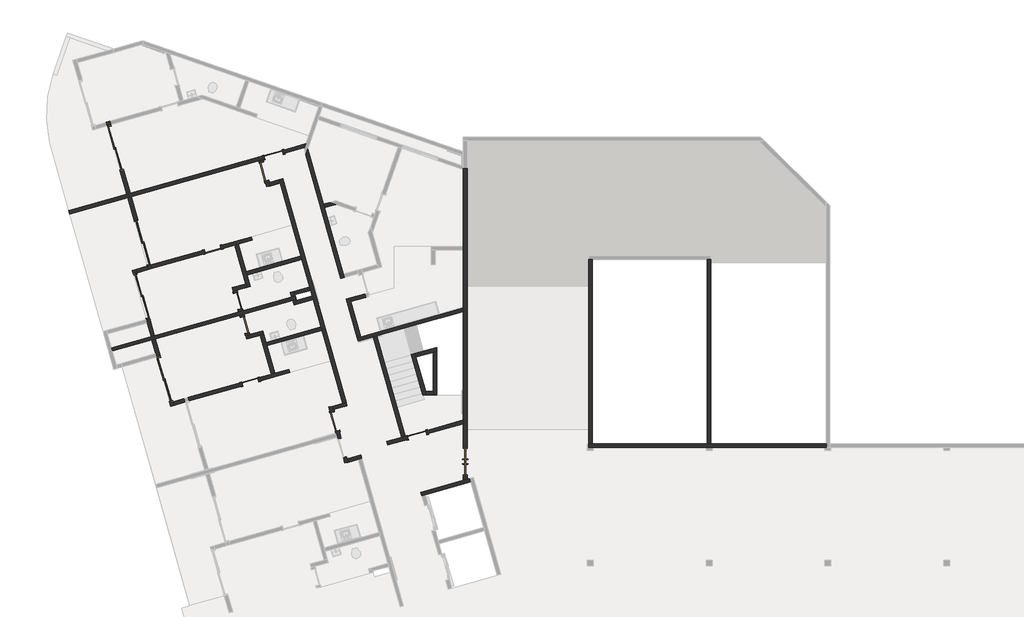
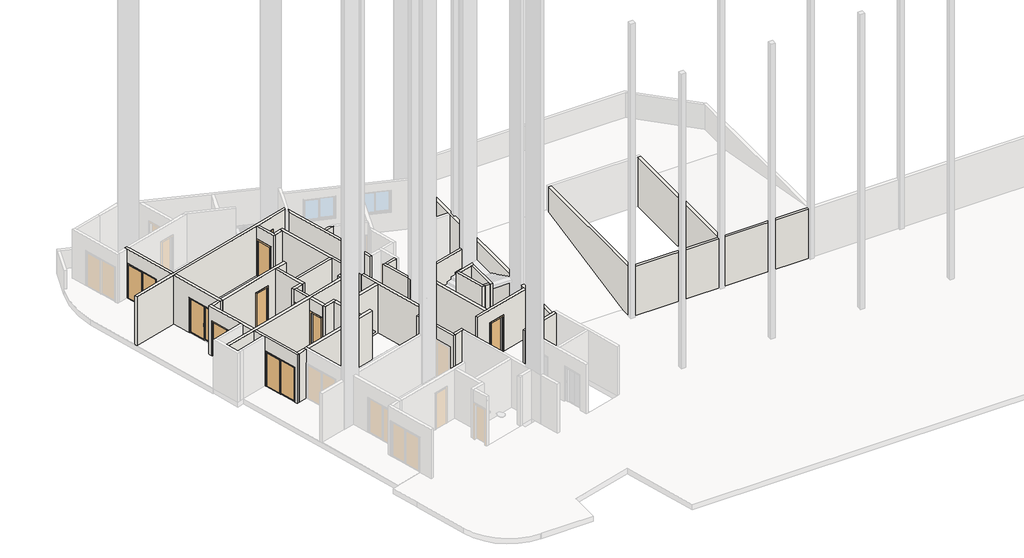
# One storey, part 2 of 4: 44 walls, 13 doors.
"""IFC4 building model written with IfcOpenShell, lengths in millimetres."""

from ifc_helpers import new_model, si_unit, frame, origin, place, context, project, spatial, polyline, outline, extrude, faceted_brep, transform, mapped, element, save
from components import door_1_20_x_2_10_046a985c, p2_80cm_9d4be4ef, p2_80cm_083652d6, p3_70cm_ef4d15e3, p3_70cm_0a698c7c, p4_correr_200cm_eaaa0877

model = new_model("IFC4")

# Units and contexts
model_context = context("Model", 3, world=origin())
ifc_project = project(units=[si_unit("LENGTHUNIT", "METRE", prefix="MILLI")], contexts=[model_context])

# Site, building, storey
site = spatial("IfcSite", under=ifc_project)
building = spatial("IfcBuilding", under=site)
storey = spatial("IfcBuildingStorey", under=building, Name="Garagem 5", Elevation=36250.0)

# Doors
placement = place(None, origin())
door_1_20_x_2_10_shape = door_1_20_x_2_10_046a985c(model_context)
element("IfcDoor", 1, ObjectType="Porta pivotante dupla sem revestimento : 1.20 x 2.10", at=placement, inside=storey, context=model_context, shape_type="MappedRepresentation", body=[
    mapped(door_1_20_x_2_10_shape, transform((-75072.8282189, 18002.5140353, 36250.0), x_axis=(0.0, -1.0, 0.0), y_axis=(1.0, 0.0, 0.0), z_axis=(0.0, 0.0, 1.0))),
])
p2_80cm_shape = p2_80cm_9d4be4ef(model_context)
element("IfcDoor", 2, ObjectType="M_Folha única1 : P2 - 80CM", at=placement, inside=storey, context=model_context, shape_type="MappedRepresentation", body=[
    mapped(p2_80cm_shape, transform((-83145.1128896, 30941.0402894, 36250.0), x_axis=(-0.9623628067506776, -0.2717679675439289, 0.0), y_axis=(0.2717679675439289, -0.9623628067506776, 0.0), z_axis=(0.0, 0.0, 1.0))),
])
element("IfcDoor", 3, ObjectType="M_Folha única1 : P2 - 80CM", at=placement, inside=storey, context=model_context, shape_type="MappedRepresentation", body=[
    mapped(p2_80cm_shape, transform((-80566.3456776, 19693.5423602, 36250.0), x_axis=(0.2717679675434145, -0.9623628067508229, 0.0), y_axis=(0.9623628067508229, 0.2717679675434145, 0.0), z_axis=(0.0, 0.0, 1.0))),
])
p2_80cm_2_shape = p2_80cm_083652d6(model_context)
element("IfcDoor", 4, ObjectType="M_Folha única1 : P2 - 80CM", at=placement, inside=storey, context=model_context, shape_type="MappedRepresentation", body=[
    mapped(p2_80cm_2_shape, transform((-83542.2049222, 30231.4150941, 36250.0), x_axis=(-0.2717679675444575, 0.9623628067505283, 0.0), y_axis=(-0.9623628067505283, -0.2717679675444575, 0.0), z_axis=(0.0, 0.0, 1.0))),
])
p3_70cm_shape = p3_70cm_ef4d15e3(model_context)
element("IfcDoor", 5, ObjectType="M_Folha única1 : P3 - 70CM", at=placement, inside=storey, context=model_context, shape_type="MappedRepresentation", body=[
    mapped(p3_70cm_shape, transform((-84129.1775441, 21363.1168842, 36250.0), x_axis=(0.9623628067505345, 0.27176796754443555, 0.0), y_axis=(-0.27176796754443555, 0.9623628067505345, 0.0), z_axis=(0.0, 0.0, 1.0))),
])
element("IfcDoor", 6, ObjectType="M_Folha única1 : P3 - 70CM", at=placement, inside=storey, context=model_context, shape_type="MappedRepresentation", body=[
    mapped(p3_70cm_shape, transform((-84650.97864, 24774.7108835, 36250.0), x_axis=(0.2717679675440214, -0.9623628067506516, 0.0), y_axis=(0.9623628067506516, 0.2717679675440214, 0.0), z_axis=(0.0, 0.0, 1.0))),
])
p3_70cm_2_shape = p3_70cm_0a698c7c(model_context)
element("IfcDoor", 7, ObjectType="M_Folha única1 : P3 - 70CM", at=placement, inside=storey, context=model_context, shape_type="MappedRepresentation", body=[
    mapped(p3_70cm_2_shape, transform((-84365.6222741, 23764.2299364, 36250.0), x_axis=(-0.2717679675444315, 0.9623628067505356, 0.0), y_axis=(-0.9623628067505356, -0.2717679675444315, 0.0), z_axis=(0.0, 0.0, 1.0))),
])
element("IfcDoor", 8, ObjectType="M_Folha única1 : P3 - 70CM", at=placement, inside=storey, context=model_context, shape_type="MappedRepresentation", body=[
    mapped(p3_70cm_2_shape, transform((-85705.4317558, 26944.8211633, 36250.0), x_axis=(0.9623628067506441, 0.2717679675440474, 0.0), y_axis=(-0.2717679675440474, 0.9623628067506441, 0.0), z_axis=(0.0, 0.0, 1.0))),
])
p4_correr_200cm_shape = p4_correr_200cm_eaaa0877(model_context)
element("IfcDoor", 9, ObjectType="Porta de correr dupla envidraçada sem revestimento : P4 - CORRER - 200CM", at=placement, inside=storey, context=model_context, shape_type="MappedRepresentation", body=[
    mapped(p4_correr_200cm_shape, transform((-89799.7974026, 31217.9316171, 36250.0), x_axis=(0.27176796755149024, -0.9623628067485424, 0.0), y_axis=(0.9623628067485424, 0.27176796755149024, 0.0), z_axis=(0.0, 0.0, 1.0))),
])
element("IfcDoor", 10, ObjectType="Porta de correr dupla envidraçada sem revestimento : P4 - CORRER - 200CM", at=placement, inside=storey, context=model_context, shape_type="MappedRepresentation", body=[
    mapped(p4_correr_200cm_shape, transform((-88671.9603372, 27224.125969, 36250.0), x_axis=(-0.27176796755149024, 0.9623628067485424, 0.0), y_axis=(-0.9623628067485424, -0.27176796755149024, 0.0), z_axis=(0.0, 0.0, 1.0))),
])
element("IfcDoor", 11, ObjectType="Porta de correr dupla envidraçada sem revestimento : P4 - CORRER - 200CM", at=placement, inside=storey, context=model_context, shape_type="MappedRepresentation", body=[
    mapped(p4_correr_200cm_shape, transform((-87717.4207223, 21466.8516126, 36250.0), x_axis=(0.2717679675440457, -0.9623628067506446, 0.0), y_axis=(0.9623628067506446, 0.2717679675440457, 0.0), z_axis=(0.0, 0.0, 1.0))),
])
element("IfcDoor", 12, ObjectType="Porta de correr dupla envidraçada sem revestimento : P4 - CORRER - 200CM", at=placement, inside=storey, context=model_context, shape_type="MappedRepresentation", body=[
    mapped(p4_correr_200cm_shape, transform((-88709.3738038, 24979.4758572, 36250.0), x_axis=(-0.2717679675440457, 0.9623628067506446, 0.0), y_axis=(-0.9623628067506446, -0.2717679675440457, 0.0), z_axis=(0.0, 0.0, 1.0))),
])
element("IfcDoor", 13, ObjectType="M_Folha única1 : PCF1 - 80CM", at=placement, inside=storey, context=model_context, shape_type="MappedRepresentation", body=[
    mapped(p2_80cm_shape, transform((-77103.5502958, 19127.1105693, 36250.0), x_axis=(-0.9623628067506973, -0.2717679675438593, 0.0), y_axis=(0.2717679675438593, -0.9623628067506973, 0.0), z_axis=(0.0, 0.0, 1.0))),
])

# Walls
element("IfcWall", 14, ObjectType="Básica .15 -  Interna", at=placement, inside=storey, context=model_context, shape_type="Brep", body=[
    faceted_brep([(-82901.0804648, 29892.9118737, 36250.0), (-82860.3152697, 29748.5574527, 36250.0), (-81990.6577736, 26668.9964711, 36250.0), (-81949.8925784, 26524.6420501, 36250.0), (-81623.7710174, 25369.806682, 36250.0), (-81583.0058223, 25225.452261, 36250.0), (-81515.0638304, 24984.8615593, 36250.0), (-81474.2986352, 24840.5071383, 36250.0), (-81148.1770742, 23685.6717702, 36250.0), (-81107.4118791, 23541.3173492, 36250.0), (-80237.7543829, 20461.7563676, 36250.0), (-80237.7543829, 20461.7563676, 39150.0), (-81107.4118791, 23541.3173492, 39150.0), (-81148.1770742, 23685.6717702, 39150.0), (-81474.2986352, 24840.5071383, 39150.0), (-81515.0638304, 24984.8615593, 39150.0), (-81583.0058223, 25225.452261, 39150.0), (-81623.7710174, 25369.806682, 39150.0), (-81949.8925784, 26524.6420501, 39150.0), (-81990.6577736, 26668.9964711, 39150.0), (-82860.3152697, 29748.5574527, 39150.0), (-82901.0804648, 29892.9118737, 39150.0), (-82756.7260438, 29933.6770689, 36250.0), (-82756.7260438, 29933.6770689, 39150.0), (-80093.3999619, 20502.5215627, 39150.0), (-80093.3999619, 20502.5215627, 36250.0)], [[[0, 1, 2, 3, 4, 5, 6, 7, 8, 9, 10, 11, 12, 13, 14, 15, 16, 17, 18, 19, 20, 21]], [[22, 23, 24, 25]], [[10, 9, 8, 7, 6, 5, 4, 3, 2, 1, 0, 22, 25]], [[21, 20, 19, 18, 17, 16, 15, 14, 13, 12, 11, 24, 23]], [[0, 21, 23, 22]], [[11, 10, 25, 24]]]),
])
element("IfcWall", 15, ObjectType="Básica .15 -  Interna", at=placement, inside=storey, context=model_context, shape_type="Brep", body=[
    faceted_brep([(-83750.2661164, 30692.2138999, 36250.0), (-83723.0893197, 30595.9776193, 36250.0), (-83723.0893197, 30595.9776193, 38350.0), (-83505.6749457, 29826.0873739, 38350.0), (-83505.6749457, 29826.0873739, 36250.0), (-83437.7329538, 29585.4966722, 36250.0), (-83437.7329538, 29585.4966722, 39150.0), (-83750.2661164, 30692.2138999, 39150.0), (-83578.7348987, 30636.7428144, 38350.0), (-83578.7348987, 30636.7428144, 36250.0), (-83605.9116954, 30732.9790951, 36250.0), (-83605.9116954, 30732.9790951, 39150.0), (-83334.1437279, 29770.6162883, 39150.0), (-83293.3785328, 29626.2618673, 39150.0), (-83293.3785328, 29626.2618673, 36250.0), (-83334.1437279, 29770.6162883, 36250.0), (-83361.3205246, 29866.852569, 36250.0), (-83361.3205246, 29866.852569, 38350.0)], [[[0, 1, 2, 3, 4, 5, 6, 7]], [[8, 9, 10, 11, 12, 13, 14, 15, 16, 17]], [[10, 9, 1, 0]], [[16, 15, 14, 5, 4]], [[7, 6, 13, 12, 11]], [[6, 5, 14, 13]], [[0, 7, 11, 10]], [[2, 1, 9, 8]], [[3, 2, 8, 17]], [[4, 3, 17, 16]]]),
])
element("IfcWall", 16, ObjectType="Básica .15 -  Interna", at=placement, inside=storey, context=model_context, shape_type="SweptSolid", body=[
    extrude(outline(polyline([(-82860.3152697, 29748.5574527), (-83293.3785328, 29626.2618673), (-83334.1437279, 29770.6162883), (-82901.0804648, 29892.9118737), (-82860.3152697, 29748.5574527)])), frame((0.0, 0.0, 36250.0), z_axis=(0.0, 0.0, 1.0), x_axis=(1.0, 0.0, 0.0)), (0.0, 0.0, 1.0), 2900.0),
])
element("IfcWall", 17, ObjectType="Básica .15 -  Interna", at=placement, inside=storey, context=model_context, shape_type="Brep", body=[
    faceted_brep([(-80093.3999619, 20502.5215627, 36250.0), (-80237.7543829, 20461.7563676, 36250.0), (-80670.817646, 20339.4607822, 36250.0), (-80670.817646, 20339.4607822, 39150.0), (-80237.7543829, 20461.7563676, 39150.0), (-80093.3999619, 20502.5215627, 39150.0), (-80052.6347668, 20358.1671417, 36250.0), (-80052.6347668, 20358.1671417, 39150.0), (-80630.0524508, 20195.1063612, 39150.0), (-80630.0524508, 20195.1063612, 36250.0)], [[[0, 1, 2, 3, 4, 5]], [[6, 7, 8, 9]], [[2, 1, 0, 6, 9]], [[5, 4, 3, 8, 7]], [[3, 2, 9, 8]], [[0, 5, 7, 6]]]),
])
element("IfcWall", 18, ObjectType="Básica .15 -  Interna", at=placement, inside=storey, context=model_context, shape_type="Brep", body=[
    faceted_brep([(-80529.815701, 19288.21464, 36250.0), (-80502.6389043, 19191.9783593, 36250.0), (-80461.8737092, 19047.6239383, 36250.0), (-80434.6969124, 18951.3876576, 36250.0), (-80434.6969124, 18951.3876576, 38350.0), (-80217.2825384, 18181.4974122, 38350.0), (-80217.2825384, 18181.4974122, 36250.0), (-80149.3405465, 17940.9067105, 36250.0), (-80149.3405465, 17940.9067105, 39150.0), (-80461.8737092, 19047.6239383, 39150.0), (-80502.6389043, 19191.9783593, 39150.0), (-80815.172067, 20298.695587, 39150.0), (-80815.172067, 20298.695587, 36250.0), (-80747.2300751, 20058.1048854, 36250.0), (-80747.2300751, 20058.1048854, 38350.0), (-80529.815701, 19288.21464, 38350.0), (-80290.3424914, 18992.1528527, 38350.0), (-80290.3424914, 18992.1528527, 36250.0), (-80385.46128, 19328.9798351, 36250.0), (-80385.46128, 19328.9798351, 38350.0), (-80602.8756541, 20098.8700805, 38350.0), (-80602.8756541, 20098.8700805, 36250.0), (-80630.0524508, 20195.1063612, 36250.0), (-80670.817646, 20339.4607822, 36250.0), (-80670.817646, 20339.4607822, 39150.0), (-80630.0524508, 20195.1063612, 39150.0), (-80045.7513206, 18126.0263266, 39150.0), (-80004.9861255, 17981.6719056, 39150.0), (-80004.9861255, 17981.6719056, 36250.0), (-80045.7513206, 18126.0263266, 36250.0), (-80072.9281174, 18222.2626073, 36250.0), (-80072.9281174, 18222.2626073, 38350.0)], [[[0, 1, 2, 3, 4, 5, 6, 7, 8, 9, 10, 11, 12, 13, 14, 15]], [[16, 17, 18, 19, 20, 21, 22, 23, 24, 25, 26, 27, 28, 29, 30, 31]], [[13, 12, 23, 22, 21]], [[18, 17, 3, 2, 1, 0]], [[30, 29, 28, 7, 6]], [[11, 10, 9, 8, 27, 26, 25, 24]], [[12, 11, 24, 23]], [[8, 7, 28, 27]], [[19, 18, 0, 15]], [[20, 19, 15, 14]], [[21, 20, 14, 13]], [[4, 3, 17, 16]], [[5, 4, 16, 31]], [[6, 5, 31, 30]]]),
])
element("IfcWall", 19, ObjectType="Básica .15 -  Interna", at=placement, inside=storey, context=model_context, shape_type="Brep", body=[
    faceted_brep([(-80004.9861255, 17981.6719056, 36250.0), (-79571.9228624, 18103.967491, 36250.0), (-79427.5684414, 18144.7326862, 36250.0), (-79427.5684414, 18144.7326862, 39150.0), (-79571.9228624, 18103.967491, 39150.0), (-80004.9861255, 17981.6719056, 39150.0), (-80045.7513206, 18126.0263266, 36250.0), (-80045.7513206, 18126.0263266, 39150.0), (-79468.3336366, 18289.0871072, 39150.0), (-79468.3336366, 18289.0871072, 36250.0)], [[[0, 1, 2, 3, 4, 5]], [[6, 7, 8, 9]], [[2, 1, 0, 6, 9]], [[5, 4, 3, 8, 7]], [[3, 2, 9, 8]], [[0, 5, 7, 6]]]),
])
element("IfcWall", 20, ObjectType="Básica .15 -  Interna", at=placement, inside=storey, context=model_context, shape_type="Brep", body=[
    faceted_brep([(-88305.9570711, 23274.9583478, 39150.0), (-88469.0178517, 23852.3760319, 39150.0), (-88509.7830468, 23996.7304529, 39150.0), (-89094.084177, 26065.8104874, 39150.0), (-89094.084177, 26065.8104874, 36250.0), (-89053.3189819, 25921.4560664, 36250.0), (-89053.3189819, 25921.4560664, 38350.0), (-88509.7830468, 23996.7304529, 38350.0), (-88509.7830468, 23996.7304529, 36250.0), (-88469.0178517, 23852.3760319, 36250.0), (-88305.9570711, 23274.9583478, 36250.0), (-88949.729756, 26106.5756825, 39150.0), (-88908.9645609, 25962.2212615, 39150.0), (-88161.6026501, 23315.723543, 39150.0), (-88161.6026501, 23315.723543, 36250.0), (-88365.4286258, 24037.495648, 36250.0), (-88365.4286258, 24037.495648, 38350.0), (-88908.9645609, 25962.2212615, 38350.0), (-88908.9645609, 25962.2212615, 36250.0), (-88949.729756, 26106.5756825, 36250.0)], [[[0, 1, 2, 3, 4, 5, 6, 7, 8, 9, 10]], [[11, 12, 13, 14, 15, 16, 17, 18, 19]], [[4, 19, 18, 5]], [[14, 10, 9, 8, 15]], [[3, 2, 1, 0, 13, 12, 11]], [[4, 3, 11, 19]], [[0, 10, 14, 13]], [[17, 6, 5, 18]], [[6, 17, 16, 7]], [[7, 16, 15, 8]]]),
])
element("IfcWall", 21, ObjectType="Básica .15 -  Interna", at=placement, inside=storey, context=model_context, shape_type="Brep", body=[
    faceted_brep([(-89143.3190618, 29169.2341801, 39150.0), (-88328.0151592, 26282.1457598, 39150.0), (-88287.249964, 26137.7913388, 39150.0), (-88287.249964, 26137.7913388, 36250.0), (-88328.0151592, 26282.1457598, 36250.0), (-88328.0151592, 26282.1457598, 38350.0), (-88871.5510943, 28206.8713733, 38350.0), (-88871.5510943, 28206.8713733, 36250.0), (-89143.3190618, 29169.2341801, 36250.0), (-88431.604385, 26097.0261437, 39150.0), (-88472.3695802, 26241.3805647, 39150.0), (-89287.6734828, 29128.468985, 39150.0), (-89287.6734828, 29128.468985, 36250.0), (-89015.9055153, 28166.1061782, 36250.0), (-89015.9055153, 28166.1061782, 38350.0), (-88472.3695802, 26241.3805647, 38350.0), (-88472.3695802, 26241.3805647, 36250.0), (-88431.604385, 26097.0261437, 36250.0)], [[[0, 1, 2, 3, 4, 5, 6, 7, 8]], [[9, 10, 11, 12, 13, 14, 15, 16, 17]], [[3, 17, 16, 4]], [[12, 8, 7, 13]], [[2, 1, 0, 11, 10, 9]], [[3, 2, 9, 17]], [[0, 8, 12, 11]], [[6, 14, 13, 7]], [[14, 6, 5, 15]], [[15, 5, 4, 16]]]),
])
element("IfcWall", 22, ObjectType="Básica .15 -  Interna", at=placement, inside=storey, context=model_context, shape_type="Brep", body=[
    faceted_brep([(-76904.7538909, 16570.3643175, 36250.0), (-76760.3994699, 16611.1295126, 36250.0), (-74840.4856705, 17153.3066079, 36250.0), (-74840.4856705, 17153.3066079, 39150.0), (-76760.3994699, 16611.1295126, 39150.0), (-76904.7538909, 16570.3643175, 39150.0), (-76945.5190861, 16714.7187385, 36250.0), (-76945.5190861, 16714.7187385, 39150.0), (-75147.8282189, 17222.3804954, 39150.0), (-74997.8282189, 17264.7399828, 39150.0), (-74881.2508656, 17297.6610289, 39150.0), (-74881.2508656, 17297.6610289, 36250.0), (-74997.8282189, 17264.7399828, 36250.0), (-75147.8282189, 17222.3804954, 36250.0)], [[[0, 1, 2, 3, 4, 5]], [[6, 7, 8, 9, 10, 11, 12, 13]], [[2, 1, 0, 6, 13, 12, 11]], [[5, 4, 3, 10, 9, 8, 7]], [[0, 5, 7, 6]], [[3, 2, 11, 10]]]),
])
element("IfcWall", 23, ObjectType="Básica .15 -  Interna", at=placement, inside=storey, context=model_context, shape_type="Brep", body=[
    faceted_brep([(-79570.9048554, 23078.5590693, 36250.0), (-78948.2127609, 23254.4051886, 36250.0), (-78803.8582924, 23295.1703972, 36250.0), (-75147.8282189, 24327.6207947, 36250.0), (-75147.8282189, 24327.6207947, 39150.0), (-78803.8582924, 23295.1703972, 39150.0), (-78948.2127609, 23254.4051886, 39150.0), (-79570.9048554, 23078.5590693, 39150.0), (-79611.6700506, 23222.9134903, 36250.0), (-79611.6700506, 23222.9134903, 39150.0), (-79467.3156296, 23263.6786855, 39150.0), (-75147.8282189, 24483.4871675, 39150.0), (-75147.8282189, 24483.4871675, 36250.0), (-79467.3156296, 23263.6786855, 36250.0)], [[[0, 1, 2, 3, 4, 5, 6, 7]], [[8, 9, 10, 11, 12, 13]], [[3, 2, 1, 0, 8, 13, 12]], [[7, 6, 5, 4, 11, 10, 9]], [[0, 7, 9, 8]], [[4, 3, 12, 11]]]),
])
element("IfcWall", 24, ObjectType="Básica .15 -  Interna", at=placement, inside=storey, context=model_context, shape_type="SweptSolid", body=[
    extrude(outline(polyline([(-77749.4687652, 19022.6385875), (-78948.2127609, 23254.4051886), (-78803.8582924, 23295.1703972), (-77605.1142967, 19063.4037961), (-77749.4687652, 19022.6385875)])), frame((0.0, 0.0, 36250.0), z_axis=(0.0, 0.0, 1.0), x_axis=(1.0, 0.0, 0.0)), (0.0, 0.0, 1.0), 2900.0),
])
element("IfcWall", 25, ObjectType="Básica .15 -  Interna", at=placement, inside=storey, context=model_context, shape_type="Brep", body=[
    faceted_brep([(-77508.878016, 19090.5805928, 38350.0), (-77508.878016, 19090.5805928, 36250.0), (-77605.1142967, 19063.4037961, 36250.0), (-77749.4687652, 19022.6385875, 36250.0), (-78375.5945972, 18845.8227925, 36250.0), (-78375.5945972, 18845.8227925, 39150.0), (-77749.4687652, 19022.6385875, 39150.0), (-77605.1142967, 19063.4037961, 39150.0), (-75147.8282189, 19757.3329862, 39150.0), (-75147.8282189, 19757.3329862, 36250.0), (-76738.9877706, 19307.9949669, 36250.0), (-76738.9877706, 19307.9949669, 38350.0), (-78334.829402, 18701.4683715, 36250.0), (-77468.1128209, 18946.2261718, 36250.0), (-77468.1128209, 18946.2261718, 38350.0), (-76698.2225755, 19163.6405459, 38350.0), (-76698.2225755, 19163.6405459, 36250.0), (-75147.8282189, 19601.4666134, 36250.0), (-75147.8282189, 19601.4666134, 39150.0), (-78334.829402, 18701.4683715, 39150.0)], [[[0, 1, 2, 3, 4, 5, 6, 7, 8, 9, 10, 11]], [[12, 13, 14, 15, 16, 17, 18, 19]], [[10, 9, 17, 16]], [[4, 3, 2, 1, 13, 12]], [[5, 4, 12, 19]], [[8, 7, 6, 5, 19, 18]], [[14, 13, 1, 0]], [[15, 14, 0, 11]], [[16, 15, 11, 10]], [[9, 8, 18, 17]]]),
])
element("IfcWall", 26, ObjectType="Básica .15 -  Interna", at=placement, inside=storey, context=model_context, shape_type="Brep", body=[
    faceted_brep([(-75147.8282189, 17222.3804954, 39150.0), (-75147.8282189, 19601.4666134, 39150.0), (-75147.8282189, 19757.3329862, 39150.0), (-75147.8282189, 24327.6207947, 39150.0), (-75147.8282189, 24483.4871675, 39150.0), (-75147.8282189, 26910.8243598, 39150.0), (-75147.8282189, 27060.8243598, 39150.0), (-75147.8282189, 30302.8666514, 39150.0), (-75147.8282189, 30356.258394, 39150.0), (-75147.8282189, 30356.258394, 36250.0), (-75147.8282189, 30302.8666514, 36250.0), (-75147.8282189, 27060.8243598, 36250.0), (-75147.8282189, 26910.8243598, 36250.0), (-75147.8282189, 24483.4871675, 36250.0), (-75147.8282189, 24327.6207947, 36250.0), (-75147.8282189, 19757.3329862, 36250.0), (-75147.8282189, 19601.4666134, 36250.0), (-75147.8282189, 18602.5140353, 36250.0), (-75147.8282189, 18602.5140353, 38350.0), (-75147.8282189, 17402.5140353, 38350.0), (-75147.8282189, 17402.5140353, 36250.0), (-75147.8282189, 17222.3804954, 36250.0), (-74997.8282189, 30356.258394, 39150.0), (-74997.8282189, 17264.7399828, 39150.0), (-74997.8282189, 17264.7399828, 36250.0), (-74997.8282189, 17402.5140353, 36250.0), (-74997.8282189, 17402.5140353, 38350.0), (-74997.8282189, 18602.5140353, 38350.0), (-74997.8282189, 18602.5140353, 36250.0), (-74997.8282189, 30356.258394, 36250.0)], [[[0, 1, 2, 3, 4, 5, 6, 7, 8, 9, 10, 11, 12, 13, 14, 15, 16, 17, 18, 19, 20, 21]], [[22, 23, 24, 25, 26, 27, 28, 29]], [[24, 21, 20, 25]], [[9, 29, 28, 17, 16, 15, 14, 13, 12, 11, 10]], [[8, 7, 6, 5, 4, 3, 2, 1, 0, 23, 22]], [[9, 8, 22, 29]], [[0, 21, 24, 23]], [[19, 26, 25, 20]], [[26, 19, 18, 27]], [[27, 18, 17, 28]]]),
])
element("IfcWall", 27, ObjectType="Básica .15 -  Interna", at=placement, inside=storey, context=model_context, shape_type="Brep", body=[
    faceted_brep([(-80073.6755954, 24858.9302618, 36250.0), (-79611.6700506, 23222.9134903, 36250.0), (-79611.6700506, 23222.9134903, 39150.0), (-80073.6755954, 24858.9302618, 39150.0), (-79929.3211744, 24899.695457, 36250.0), (-79929.3211744, 24899.695457, 39150.0), (-79888.5559793, 24755.3410359, 39150.0), (-79467.3156296, 23263.6786855, 39150.0), (-79467.3156296, 23263.6786855, 36250.0), (-79888.5559793, 24755.3410359, 36250.0)], [[[0, 1, 2, 3]], [[4, 5, 6, 7, 8, 9]], [[1, 0, 4, 9, 8]], [[3, 2, 7, 6, 5]], [[0, 3, 5, 4]], [[2, 1, 8, 7]]]),
])
element("IfcWall", 28, ObjectType="Básica .15 -  Interna", at=placement, inside=storey, context=model_context, shape_type="Brep", body=[
    faceted_brep([(-79888.5559793, 24755.3410359, 36250.0), (-79272.1145689, 24929.4219834, 36250.0), (-79272.1145689, 24929.4219834, 39150.0), (-79888.5559793, 24755.3410359, 39150.0), (-79929.3211744, 24899.695457, 36250.0), (-79929.3211744, 24899.695457, 39150.0), (-79312.8797641, 25073.7764044, 39150.0), (-79312.8797641, 25073.7764044, 38350.0), (-79312.8797641, 25073.7764044, 36250.0)], [[[0, 1, 2, 3]], [[4, 5, 6, 7, 8]], [[1, 0, 4, 8]], [[3, 2, 6, 5]], [[0, 3, 5, 4]], [[2, 1, 8, 7, 6]]]),
])
element("IfcWall", 29, ObjectType="Básica .15 -  Interna", at=placement, inside=storey, context=model_context, shape_type="Brep", body=[
    faceted_brep([(-81789.2550074, 30934.0017027, 36250.0), (-80318.2667662, 25725.0567879, 36250.0), (-80318.2667662, 25725.0567879, 39150.0), (-81789.2550074, 30934.0017027, 39150.0), (-81703.3880158, 31181.8778654, 36250.0), (-81703.3880158, 31181.8778654, 39150.0), (-81045.1503443, 28850.9797144, 39150.0), (-81004.3851492, 28706.6252933, 39150.0), (-80214.6775403, 25910.176404, 39150.0), (-80173.9123452, 25765.821983, 39150.0), (-80173.9123452, 25765.821983, 36250.0), (-80214.6775403, 25910.176404, 36250.0), (-81004.3851492, 28706.6252933, 36250.0), (-81045.1503443, 28850.9797144, 36250.0)], [[[0, 1, 2, 3]], [[4, 5, 6, 7, 8, 9, 10, 11, 12, 13]], [[1, 0, 4, 13, 12, 11, 10]], [[3, 2, 9, 8, 7, 6, 5]], [[0, 3, 5, 4]], [[2, 1, 10, 9]]]),
])
element("IfcWall", 30, ObjectType="Básica .15 -  Interna", at=placement, inside=storey, context=model_context, shape_type="Brep", body=[
    faceted_brep([(-86896.1153684, 20659.6762856, 36250.0), (-87373.4755442, 20524.8714034, 36250.0), (-87373.4755442, 20524.8714034, 38350.0), (-87373.4755442, 20524.8714034, 39150.0), (-86896.1153684, 20659.6762856, 39150.0), (-86855.3501733, 20515.3218646, 36250.0), (-86855.3501733, 20515.3218646, 38350.0), (-86855.3501733, 20515.3218646, 39150.0), (-87332.7103491, 20380.5169824, 39150.0), (-87332.7103491, 20380.5169824, 36250.0)], [[[0, 1, 2, 3, 4]], [[5, 6, 7, 8, 9]], [[1, 0, 5, 9]], [[4, 3, 8, 7]], [[0, 4, 7, 6, 5]], [[3, 2, 1, 9, 8]]]),
])
element("IfcWall", 31, ObjectType="Básica .15 -  Interna", at=placement, inside=storey, context=model_context, shape_type="Brep", body=[
    faceted_brep([(-88908.9645609, 25962.2212615, 36250.0), (-88431.604385, 26097.0261437, 36250.0), (-88431.604385, 26097.0261437, 39150.0), (-88908.9645609, 25962.2212615, 39150.0), (-88908.9645609, 25962.2212615, 38350.0), (-88949.729756, 26106.5756825, 36250.0), (-88949.729756, 26106.5756825, 39150.0), (-88472.3695802, 26241.3805647, 39150.0), (-88472.3695802, 26241.3805647, 36250.0)], [[[0, 1, 2, 3, 4]], [[5, 6, 7, 8]], [[1, 0, 5, 8]], [[3, 2, 7, 6]], [[0, 4, 3, 6, 5]], [[2, 1, 8, 7]]]),
])
element("IfcWall", 32, ObjectType="Básica .15 -  Interna", at=placement, inside=storey, context=model_context, shape_type="Brep", body=[
    faceted_brep([(-91725.2428613, 28440.1077234, 36250.0), (-89287.6734828, 29128.468985, 36250.0), (-89143.3190618, 29169.2341801, 36250.0), (-83750.2661164, 30692.2138999, 36250.0), (-83605.9116954, 30732.9790951, 36250.0), (-83509.6754148, 30760.1558918, 36250.0), (-83509.6754148, 30760.1558918, 38350.0), (-82739.7851694, 30977.5702659, 38350.0), (-82739.7851694, 30977.5702659, 36250.0), (-81845.4155775, 31230.1371819, 36250.0), (-81845.4155775, 31230.1371819, 39150.0), (-83605.9116954, 30732.9790951, 39150.0), (-83750.2661164, 30692.2138999, 39150.0), (-89143.3190618, 29169.2341801, 39150.0), (-89287.6734828, 29128.468985, 39150.0), (-91725.2428613, 28440.1077234, 39150.0), (-83550.4406099, 30904.5103128, 38350.0), (-83550.4406099, 30904.5103128, 36250.0), (-89184.084257, 29313.5886011, 36250.0), (-89328.438678, 29272.823406, 36250.0), (-91766.0080564, 28584.4621444, 36250.0), (-91766.0080564, 28584.4621444, 39150.0), (-89328.438678, 29272.823406, 39150.0), (-89184.084257, 29313.5886011, 39150.0), (-81785.5670817, 31402.9045654, 39150.0), (-81785.5670817, 31402.9045654, 36250.0), (-82780.5503645, 31121.9246869, 36250.0), (-82780.5503645, 31121.9246869, 38350.0)], [[[0, 1, 2, 3, 4, 5, 6, 7, 8, 9, 10, 11, 12, 13, 14, 15]], [[16, 17, 18, 19, 20, 21, 22, 23, 24, 25, 26, 27]], [[26, 25, 9, 8]], [[20, 19, 18, 17, 5, 4, 3, 2, 1, 0]], [[15, 14, 13, 12, 11, 10, 24, 23, 22, 21]], [[0, 15, 21, 20]], [[10, 9, 25, 24]], [[6, 5, 17, 16]], [[7, 6, 16, 27]], [[8, 7, 27, 26]]]),
])
element("IfcWall", 33, ObjectType="Básica .15 -  Interna", at=placement, inside=storey, context=model_context, shape_type="Brep", body=[
    faceted_brep([(-90040.1533547, 32345.0314424, 39150.0), (-89999.3881596, 32200.6770214, 39150.0), (-89184.084257, 29313.5886011, 39150.0), (-89184.084257, 29313.5886011, 36250.0), (-89455.8522245, 30275.9514079, 36250.0), (-89455.8522245, 30275.9514079, 38350.0), (-89999.3881596, 32200.6770214, 38350.0), (-89999.3881596, 32200.6770214, 36250.0), (-90040.1533547, 32345.0314424, 36250.0), (-89328.438678, 29272.823406, 39150.0), (-90143.7425806, 32159.9118263, 39150.0), (-90184.5077758, 32304.2662473, 39150.0), (-90184.5077758, 32304.2662473, 36250.0), (-90143.7425806, 32159.9118262, 36250.0), (-90143.7425806, 32159.9118262, 38350.0), (-89600.2066455, 30235.1862128, 38350.0), (-89600.2066455, 30235.1862128, 36250.0), (-89328.438678, 29272.823406, 36250.0)], [[[0, 1, 2, 3, 4, 5, 6, 7, 8]], [[9, 10, 11, 12, 13, 14, 15, 16, 17]], [[12, 8, 7, 13]], [[3, 17, 16, 4]], [[2, 1, 0, 11, 10, 9]], [[0, 8, 12, 11]], [[3, 2, 9, 17]], [[15, 5, 4, 16]], [[5, 15, 14, 6]], [[6, 14, 13, 7]]]),
])
element("IfcWall", 34, ObjectType="Básica .15 -  Interna", at=placement, inside=storey, context=model_context, shape_type="Brep", body=[
    faceted_brep([(-89936.6922366, 22658.5779377, 36250.0), (-88265.191876, 23130.6039268, 36250.0), (-88120.837455, 23171.369122, 36250.0), (-84560.09507, 24176.9106019, 36250.0), (-84415.740649, 24217.675797, 36250.0), (-82192.6825654, 24845.459802, 36250.0), (-82192.6825654, 24845.459802, 39150.0), (-84415.740649, 24217.675797, 39150.0), (-84560.09507, 24176.9106019, 39150.0), (-88120.837455, 23171.369122, 39150.0), (-88265.191876, 23130.6039268, 39150.0), (-89936.6922366, 22658.5779377, 39150.0), (-89977.4574318, 22802.9323587, 36250.0), (-89977.4574318, 22802.9323587, 39150.0), (-88305.9570711, 23274.9583478, 39150.0), (-88161.6026501, 23315.723543, 39150.0), (-84600.8602651, 24321.2650229, 39150.0), (-84456.5058441, 24362.030218, 39150.0), (-82233.4477605, 24989.814223, 39150.0), (-82233.4477605, 24989.814223, 36250.0), (-84456.5058441, 24362.030218, 36250.0), (-84600.8602651, 24321.2650229, 36250.0), (-88161.6026501, 23315.723543, 36250.0), (-88305.9570711, 23274.9583478, 36250.0)], [[[0, 1, 2, 3, 4, 5, 6, 7, 8, 9, 10, 11]], [[12, 13, 14, 15, 16, 17, 18, 19, 20, 21, 22, 23]], [[5, 4, 3, 2, 1, 0, 12, 23, 22, 21, 20, 19]], [[6, 5, 19, 18]], [[11, 10, 9, 8, 7, 6, 18, 17, 16, 15, 14, 13]], [[0, 11, 13, 12]]]),
])
element("IfcWall", 35, ObjectType="Básica .15 -  Interna", at=placement, inside=storey, context=model_context, shape_type="Brep", body=[
    faceted_brep([(-87477.0647701, 20339.7517872, 39150.0), (-88061.3659003, 22408.8318218, 39150.0), (-88102.1310955, 22553.1862428, 39150.0), (-88265.191876, 23130.6039268, 39150.0), (-88265.191876, 23130.6039268, 36250.0), (-88102.1310955, 22553.1862428, 36250.0), (-88061.3659003, 22408.8318218, 36250.0), (-88061.3659003, 22408.8318218, 38350.0), (-87517.8299653, 20484.1062083, 38350.0), (-87517.8299653, 20484.1062083, 36250.0), (-87477.0647701, 20339.7517872, 36250.0), (-88120.837455, 23171.369122, 39150.0), (-87373.4755442, 20524.8714034, 39150.0), (-87332.7103491, 20380.5169824, 39150.0), (-87332.7103491, 20380.5169824, 36250.0), (-87373.4755442, 20524.8714034, 36250.0), (-87373.4755442, 20524.8714034, 38350.0), (-87917.0114793, 22449.5970169, 38350.0), (-87917.0114793, 22449.5970169, 36250.0), (-88120.837455, 23171.369122, 36250.0)], [[[0, 1, 2, 3, 4, 5, 6, 7, 8, 9, 10]], [[11, 12, 13, 14, 15, 16, 17, 18, 19]], [[14, 10, 9, 15]], [[4, 19, 18, 6, 5]], [[3, 2, 1, 0, 13, 12, 11]], [[0, 10, 14, 13]], [[4, 3, 11, 19]], [[8, 16, 15, 9]], [[16, 8, 7, 17]], [[17, 7, 6, 18]]]),
])
element("IfcWall", 36, ObjectType="Básica .15 -  Interna", at=placement, inside=storey, context=model_context, shape_type="SweptSolid", body=[
    extrude(outline(polyline([(-82179.094167, 24797.3416617), (-81515.0638304, 24984.8615593), (-81474.2986352, 24840.5071383), (-82282.6833929, 24612.2220455), (-82179.094167, 24797.3416617)])), frame((0.0, 0.0, 36250.0), z_axis=(0.0, 0.0, 1.0), x_axis=(1.0, 0.0, 0.0)), (0.0, 0.0, 1.0), 2900.0),
])
element("IfcWall", 37, ObjectType="Básica .15 -  Interna", at=placement, inside=storey, context=model_context, shape_type="SweptSolid", body=[
    extrude(outline(polyline([(-82192.6825654, 24845.459802), (-82179.094167, 24797.3416617), (-82282.6833929, 24612.2220455), (-82337.0369864, 24804.6946069), (-82192.6825654, 24845.459802)])), frame((0.0, 0.0, 36250.0), z_axis=(0.0, 0.0, 1.0), x_axis=(1.0, 0.0, 0.0)), (0.0, 0.0, 1.0), 2900.0),
])
element("IfcWall", 38, ObjectType="Básica .15 -  Interna", at=placement, inside=storey, context=model_context, shape_type="Brep", body=[
    faceted_brep([(-83593.7317942, 23514.6100515, 36250.0), (-84171.1494782, 23351.5492709, 36250.0), (-84315.5038992, 23310.7840758, 36250.0), (-84315.5038992, 23310.7840758, 39150.0), (-84171.1494782, 23351.5492709, 39150.0), (-83593.7317942, 23514.6100515, 39150.0), (-83552.966599, 23370.2556304, 36250.0), (-83552.966599, 23370.2556304, 39150.0), (-83697.32102, 23329.4904353, 39150.0), (-84274.7387041, 23166.4296548, 39150.0), (-84274.7387041, 23166.4296548, 36250.0), (-83697.32102, 23329.4904353, 36250.0)], [[[0, 1, 2, 3, 4, 5]], [[6, 7, 8, 9, 10, 11]], [[2, 1, 0, 6, 11, 10]], [[5, 4, 3, 9, 8, 7]], [[0, 5, 7, 6]], [[3, 2, 10, 9]]]),
])
element("IfcWall", 39, ObjectType="Básica .15 -  Interna", at=placement, inside=storey, context=model_context, shape_type="Brep", body=[
    faceted_brep([(-83090.9610542, 21734.238859, 36250.0), (-83417.0826153, 22889.0742271, 36250.0), (-83457.8478104, 23033.4286481, 36250.0), (-83552.966599, 23370.2556304, 36250.0), (-83552.966599, 23370.2556304, 39150.0), (-83457.8478104, 23033.4286481, 39150.0), (-83417.0826153, 22889.0742271, 39150.0), (-83090.9610542, 21734.238859, 39150.0), (-83235.3154752, 21693.4736638, 36250.0), (-83235.3154752, 21693.4736638, 39150.0), (-83697.32102, 23329.4904353, 39150.0), (-83697.32102, 23329.4904353, 36250.0)], [[[0, 1, 2, 3, 4, 5, 6, 7]], [[8, 9, 10, 11]], [[3, 2, 1, 0, 8, 11]], [[7, 6, 5, 4, 10, 9]], [[0, 7, 9, 8]], [[4, 3, 11, 10]]]),
])
element("IfcWall", 40, ObjectType="Básica .15 -  Interna", at=placement, inside=storey, context=model_context, shape_type="SweptSolid", body=[
    extrude(outline(polyline([(-83457.8478104, 23033.4286481), (-81148.1770742, 23685.6717702), (-81107.4118791, 23541.3173492), (-83417.0826153, 22889.0742271), (-83457.8478104, 23033.4286481)])), frame((0.0, 0.0, 36250.0), z_axis=(0.0, 0.0, 1.0), x_axis=(1.0, 0.0, 0.0)), (0.0, 0.0, 1.0), 2900.0),
])
element("IfcWall", 41, ObjectType="Básica .15 -  Interna", at=placement, inside=storey, context=model_context, shape_type="Brep", body=[
    faceted_brep([(-82513.5433702, 21897.2996395, 36250.0), (-83090.9610542, 21734.238859, 36250.0), (-83235.3154752, 21693.4736638, 36250.0), (-83812.7331593, 21530.4128833, 36250.0), (-83812.7331593, 21530.4128833, 38350.0), (-84486.387124, 21340.175306, 38350.0), (-84486.387124, 21340.175306, 36250.0), (-86751.7609474, 20700.4414807, 36250.0), (-86751.7609474, 20700.4414807, 39150.0), (-83235.3154752, 21693.4736638, 39150.0), (-83090.9610542, 21734.238859, 39150.0), (-82513.5433702, 21897.2996395, 39150.0), (-83771.9679641, 21386.0584623, 38350.0), (-83771.9679641, 21386.0584623, 36250.0), (-82472.778175, 21752.9452185, 36250.0), (-82472.778175, 21752.9452185, 39150.0), (-86710.9957523, 20556.0870597, 39150.0), (-86710.9957523, 20556.0870597, 38350.0), (-86710.9957523, 20556.0870597, 36250.0), (-84445.6219289, 21195.820885, 36250.0), (-84445.6219289, 21195.820885, 38350.0)], [[[0, 1, 2, 3, 4, 5, 6, 7, 8, 9, 10, 11]], [[12, 13, 14, 15, 16, 17, 18, 19, 20]], [[19, 18, 7, 6]], [[14, 13, 3, 2, 1, 0]], [[11, 10, 9, 8, 16, 15]], [[0, 11, 15, 14]], [[4, 3, 13, 12]], [[5, 4, 12, 20]], [[6, 5, 20, 19]], [[8, 7, 18, 17, 16]]]),
])
element("IfcWall", 42, ObjectType="Básica .15 -  Interna", at=placement, inside=storey, context=model_context, shape_type="SweptSolid", body=[
    extrude(outline(polyline([(150.0, 0.0), (250.0, 0.0), (250.0, -2100.0), (950.0, -2100.0), (950.0, 0.0), (1050.0, 0.0), (1050.0, -2900.0), (150.0, -2900.0), (150.0, 0.0)])), frame((-84600.8602651, 24321.2650229, 36250.0), z_axis=(0.9623628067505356, 0.2717679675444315, 0.0), x_axis=(0.2717679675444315, -0.9623628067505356, 0.0)), (0.0, 0.0, 1.0), 150.0),
])
element("IfcWall", 43, ObjectType="Básica .15 -  Interna", at=placement, inside=storey, context=model_context, shape_type="Brep", body=[
    faceted_brep([(-84770.8044918, 27130.823522, 36250.0), (-84308.798947, 25494.8067505, 36250.0), (-84268.0337519, 25350.4523295, 36250.0), (-84268.0337519, 25350.4523295, 39150.0), (-84308.798947, 25494.8067505, 39150.0), (-84770.8044918, 27130.823522, 39150.0), (-84626.4500708, 27171.5887171, 36250.0), (-84626.4500708, 27171.5887171, 39150.0), (-84300.3285098, 26016.753349, 39150.0), (-84259.5633146, 25872.398928, 39150.0), (-84123.6793309, 25391.2175246, 39150.0), (-84123.6793309, 25391.2175246, 36250.0), (-84259.5633146, 25872.398928, 36250.0), (-84300.3285098, 26016.753349, 36250.0)], [[[0, 1, 2, 3, 4, 5]], [[6, 7, 8, 9, 10, 11, 12, 13]], [[2, 1, 0, 6, 13, 12, 11]], [[5, 4, 3, 10, 9, 8, 7]], [[3, 2, 11, 10]], [[0, 5, 7, 6]]]),
])
element("IfcWall", 44, ObjectType="Básica .15 -  Interna", at=placement, inside=storey, context=model_context, shape_type="SweptSolid", body=[
    extrude(outline(polyline([(-84300.3285098, 26016.753349), (-81990.6577736, 26668.9964711), (-81949.8925784, 26524.6420501), (-84259.5633146, 25872.398928), (-84300.3285098, 26016.753349)])), frame((0.0, 0.0, 36250.0), z_axis=(0.0, 0.0, 1.0), x_axis=(1.0, 0.0, 0.0)), (0.0, 0.0, 1.0), 2900.0),
])
element("IfcWall", 45, ObjectType="Básica .15 -  Interna", at=placement, inside=storey, context=model_context, shape_type="Brep", body=[
    faceted_brep([(-84308.798947, 25494.8067505, 36250.0), (-84886.2166311, 25331.74597, 36250.0), (-84886.2166311, 25331.74597, 39150.0), (-84308.798947, 25494.8067505, 39150.0), (-84268.0337519, 25350.4523295, 36250.0), (-84268.0337519, 25350.4523295, 39150.0), (-84701.0970149, 25228.1567441, 39150.0), (-84845.4514359, 25187.391549, 39150.0), (-84845.4514359, 25187.391549, 36250.0), (-84701.0970149, 25228.1567441, 36250.0)], [[[0, 1, 2, 3]], [[4, 5, 6, 7, 8, 9]], [[1, 0, 4, 9, 8]], [[3, 2, 7, 6, 5]], [[2, 1, 8, 7]], [[0, 3, 5, 4]]]),
])
element("IfcWall", 46, ObjectType="Básica .15 -  Interna", at=placement, inside=storey, context=model_context, shape_type="SweptSolid", body=[
    extrude(outline(polyline([(800.0, -2100.0), (800.0, 0.0), (900.0, 0.0), (900.0, -2900.0), (0.0, -2900.0), (0.0, 0.0), (100.0, 0.0), (100.0, -2100.0), (800.0, -2100.0)])), frame((-84845.4514359, 25187.391549, 36250.0), z_axis=(0.9623628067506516, 0.2717679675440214, 0.0), x_axis=(0.2717679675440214, -0.9623628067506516, 0.0)), (0.0, 0.0, 1.0), 150.0),
])
element("IfcWall", 47, ObjectType="Básica .15 -  Interna", at=placement, inside=storey, context=model_context, shape_type="Brep", body=[
    faceted_brep([(-82432.1557751, 25141.5215893, 36250.0), (-82377.8021816, 24949.0490279, 36250.0), (-82377.8021816, 24949.0490279, 39150.0), (-82432.1557751, 25141.5215893, 39150.0), (-82287.801354, 25182.2867844, 36250.0), (-82287.801354, 25182.2867844, 39150.0), (-82247.0361589, 25037.9323634, 39150.0), (-82233.4477605, 24989.814223, 39150.0), (-82233.4477605, 24989.814223, 36250.0), (-82247.0361589, 25037.9323634, 36250.0)], [[[0, 1, 2, 3]], [[4, 5, 6, 7, 8, 9]], [[1, 0, 4, 9, 8]], [[2, 1, 8, 7]], [[3, 2, 7, 6, 5]], [[0, 3, 5, 4]]]),
])
element("IfcWall", 48, ObjectType="Básica .15 -  Interna", at=placement, inside=storey, context=model_context, shape_type="SweptSolid", body=[
    extrude(outline(polyline([(-81583.0058223, 25225.452261), (-82247.0361589, 25037.9323634), (-82287.801354, 25182.2867844), (-81623.7710174, 25369.806682), (-81583.0058223, 25225.452261)])), frame((0.0, 0.0, 36250.0), z_axis=(0.0, 0.0, 1.0), x_axis=(1.0, 0.0, 0.0)), (0.0, 0.0, 1.0), 2900.0),
])
element("IfcWall", 49, ObjectType="Básica .15 -  Interna", at=placement, inside=storey, context=model_context, shape_type="SweptSolid", body=[
    extrude(outline(polyline([(-81045.1503443, 28850.9797144), (-80778.126122, 28926.3864421), (-80530.2499593, 28840.5194505), (-81004.3851492, 28706.6252933), (-81045.1503443, 28850.9797144)])), frame((0.0, 0.0, 36250.0), z_axis=(0.0, 0.0, 1.0), x_axis=(1.0, 0.0, 0.0)), (0.0, 0.0, 1.0), 2900.0),
])
element("IfcWall", 50, ObjectType="Básica .15 -  Interna", at=placement, inside=storey, context=model_context, shape_type="Brep", body=[
    faceted_brep([(-85348.2221759, 26967.7627414, 38350.0), (-85348.2221759, 26967.7627414, 36250.0), (-84770.8044918, 27130.823522, 36250.0), (-84626.4500708, 27171.5887171, 36250.0), (-84049.0323868, 27334.6494976, 36250.0), (-84049.0323868, 27334.6494976, 39150.0), (-84626.4500708, 27171.5887171, 39150.0), (-84770.8044918, 27130.823522, 39150.0), (-88287.249964, 26137.7913388, 39150.0), (-88287.249964, 26137.7913388, 36250.0), (-86021.8761406, 26777.5251642, 36250.0), (-86021.8761406, 26777.5251642, 38350.0), (-84089.7975819, 27479.0039186, 36250.0), (-85388.987371, 27112.1171625, 36250.0), (-85388.987371, 27112.1171625, 38350.0), (-86062.6413357, 26921.8795852, 38350.0), (-86062.6413357, 26921.8795852, 36250.0), (-88328.0151592, 26282.1457598, 36250.0), (-88328.0151592, 26282.1457598, 39150.0), (-84089.7975819, 27479.0039186, 39150.0)], [[[0, 1, 2, 3, 4, 5, 6, 7, 8, 9, 10, 11]], [[12, 13, 14, 15, 16, 17, 18, 19]], [[10, 9, 17, 16]], [[4, 3, 2, 1, 13, 12]], [[5, 4, 12, 19]], [[8, 7, 6, 5, 19, 18]], [[16, 15, 11, 10]], [[15, 14, 0, 11]], [[14, 13, 1, 0]], [[9, 8, 18, 17]]]),
])
element("IfcWall", 51, ObjectType="Básica .15 -  Interna", at=placement, inside=storey, context=model_context, shape_type="Brep", body=[
    faceted_brep([(-76703.5854218, 20819.1154254, 36250.0), (-76745.9449092, 20969.1154254, 36250.0), (-77152.5348621, 22408.8989724, 36250.0), (-77193.3000572, 22553.2533934, 36250.0), (-77193.3000572, 22553.2533934, 39150.0), (-77152.5348621, 22408.8989724, 39150.0), (-76745.9449092, 20969.1154254, 39150.0), (-76703.5854218, 20819.1154254, 39150.0), (-76859.4517946, 20819.1154254, 36250.0), (-76859.4517946, 20819.1154254, 39150.0), (-77337.6544782, 22512.4881983, 39150.0), (-77337.6544782, 22512.4881983, 36250.0)], [[[0, 1, 2, 3, 4, 5, 6, 7]], [[8, 9, 10, 11]], [[3, 2, 1, 0, 8, 11]], [[7, 6, 5, 4, 10, 9]], [[4, 3, 11, 10]], [[0, 7, 9, 8]]]),
])
element("IfcWall", 52, ObjectType="Básica .15 -  Interna", at=placement, inside=storey, context=model_context, shape_type="Brep", body=[
    faceted_brep([(-77152.5348621, 22408.8989724, 36250.0), (-76425.2862396, 22614.2714979, 36250.0), (-76275.2862396, 22656.6309852, 36250.0), (-76275.2862396, 22656.6309852, 39150.0), (-76425.2862396, 22614.2714979, 39150.0), (-77152.5348621, 22408.8989724, 39150.0), (-77193.3000572, 22553.2533934, 36250.0), (-77193.3000572, 22553.2533934, 39150.0), (-76275.2862396, 22812.497358, 39150.0), (-76275.2862396, 22812.497358, 36250.0)], [[[0, 1, 2, 3, 4, 5]], [[6, 7, 8, 9]], [[2, 1, 0, 6, 9]], [[5, 4, 3, 8, 7]], [[0, 5, 7, 6]], [[3, 2, 9, 8]]]),
])
element("IfcWall", 53, ObjectType="Básica .15 -  Interna", at=placement, inside=storey, context=model_context, shape_type="Brep", body=[
    faceted_brep([(-76425.2862396, 22614.2714979, 36250.0), (-76425.2862396, 20969.1154254, 36250.0), (-76425.2862396, 20819.1154254, 36250.0), (-76425.2862396, 20819.1154254, 39150.0), (-76425.2862396, 20969.1154254, 39150.0), (-76425.2862396, 22614.2714979, 39150.0), (-76275.2862396, 22656.6309852, 36250.0), (-76275.2862396, 22656.6309852, 39150.0), (-76275.2862396, 20819.1154254, 39150.0), (-76275.2862396, 20819.1154254, 36250.0)], [[[0, 1, 2, 3, 4, 5]], [[6, 7, 8, 9]], [[2, 1, 0, 6, 9]], [[5, 4, 3, 8, 7]], [[0, 5, 7, 6]], [[3, 2, 9, 8]]]),
])
element("IfcWall", 54, ObjectType="Básica .15 -  Interna", at=placement, inside=storey, context=model_context, shape_type="SweptSolid", body=[
    extrude(outline(polyline([(-76745.9449092, 20969.1154254), (-76425.2862396, 20969.1154254), (-76425.2862396, 20819.1154254), (-76703.5854218, 20819.1154254), (-76745.9449092, 20969.1154254)])), frame((0.0, 0.0, 36250.0), z_axis=(0.0, 0.0, 1.0), x_axis=(1.0, 0.0, 0.0)), (0.0, 0.0, 1.0), 2900.0),
])
element("IfcWall", 55, ObjectType="Básica .15 -  Interna", at=placement, inside=storey, context=model_context, shape_type="Brep", body=[
    faceted_brep([(-69878.6137209, 18602.5140353, 36250.0), (-59878.6137209, 18602.5140353, 36250.0), (-59878.6137209, 18602.5140353, 39150.0), (-69878.6137209, 18602.5140353, 39150.0), (-69878.6137209, 18752.5140353, 36250.0), (-69878.6137209, 18752.5140353, 39150.0), (-69728.6137209, 18752.5140353, 39150.0), (-64878.6137209, 18752.5140353, 39150.0), (-64728.6137209, 18752.5140353, 39150.0), (-59878.6137209, 18752.5140353, 39150.0), (-59878.6137209, 18752.5140353, 36250.0), (-64728.6137209, 18752.5140353, 36250.0), (-64878.6137209, 18752.5140353, 36250.0), (-69728.6137209, 18752.5140353, 36250.0)], [[[0, 1, 2, 3]], [[4, 5, 6, 7, 8, 9, 10, 11, 12, 13]], [[1, 0, 4, 13, 12, 11, 10]], [[3, 2, 9, 8, 7, 6, 5]], [[0, 3, 5, 4]], [[2, 1, 10, 9]]]),
])
element("IfcWall", 56, ObjectType="Básica .15 -  Interna", at=placement, inside=storey, context=model_context, shape_type="SweptSolid", body=[
    extrude(outline(polyline([(-69728.6137209, 26523.5266097), (-69728.6137209, 18752.5140353), (-69878.6137209, 18752.5140353), (-69878.6137209, 26523.5266097), (-69728.6137209, 26523.5266097)])), frame((0.0, 0.0, 36250.0), z_axis=(0.0, 0.0, 1.0), x_axis=(1.0, 0.0, 0.0)), (0.0, 0.0, 1.0), 2900.0),
])
element("IfcWall", 57, ObjectType="Básica .15 -  Interna", at=placement, inside=storey, context=model_context, shape_type="SweptSolid", body=[
    extrude(outline(polyline([(-64728.6137209, 26523.5266097), (-64728.6137209, 18752.5140353), (-64878.6137209, 18752.5140353), (-64878.6137209, 26523.5266097), (-64728.6137209, 26523.5266097)])), frame((0.0, 0.0, 36250.0), z_axis=(0.0, 0.0, 1.0), x_axis=(1.0, 0.0, 0.0)), (0.0, 0.0, 1.0), 2900.0),
])

save(model, "model.ifc")
